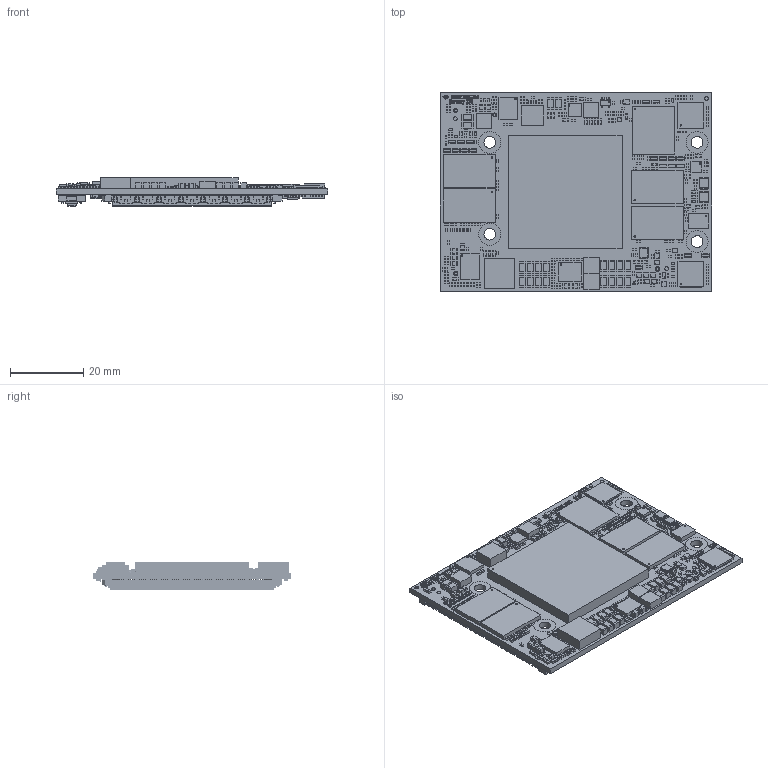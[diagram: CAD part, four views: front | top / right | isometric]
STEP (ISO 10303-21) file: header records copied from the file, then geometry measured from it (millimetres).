
FILE_DESCRIPTION(('Open CASCADE Model'),'2;1');
FILE_NAME('Open CASCADE Shape Model','2022-03-31T13:02:45',('Author'),( 'Open CASCADE'),'Open CASCADE STEP processor 6.8','Open CASCADE 6.8' ,'Unknown');
FILE_SCHEMA(('AUTOMOTIVE_DESIGN { 1 0 10303 214 1 1 1 1 }'));
Length unit declared in the file: millimetre
Products named in the file (810): --
Assembly tree (1417 placements, depth 5):
  --
    --
      --
    --
      --
        --
      --
        --
      --
        --
      --
        --
          --
        --
          --
        --
          --
        --
          --
        --
          --
        --
          --
        --
          --
    --
      --
        --
    --
      --
        --
        --
        --
        --
        --
        --
        --
        --
        --
      --
        --
        --
        --
        --
        --
    --
      --  x4
      --  x4
    --
      --
        --
      --
        --
    --
      --
        --
      --
        --
    --
      --
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Bounding box: 74 x 54 x 7.81 mm (x, y, z)
Volume: 13122 mm3; surface area: 23605.6 mm2
Topology: 1790 solids, 1790 shells, 22068 faces, 51969 edges, 34059 vertices
Faces by surface type: plane 20499, extrusion 916, cylinder 590, sphere 34, torus 16, cone 12, bspline 1
Full cylindrical faces by diameter (mm): 0.19 x2, 0.2 x16, 0.3 x4, 0.4 x18, 1 x6, 1.1 x3, 1.2 x3, 3.2 x12, 6 x8
Entity records: 255993 total; most frequent: CARTESIAN_POINT 42881, ORIENTED_EDGE 34364, DIRECTION 31364, EDGE_CURVE 17182, VECTOR 15620, LINE 14799, VERTEX_POINT 11345, AXIS2_PLACEMENT_3D 7872
